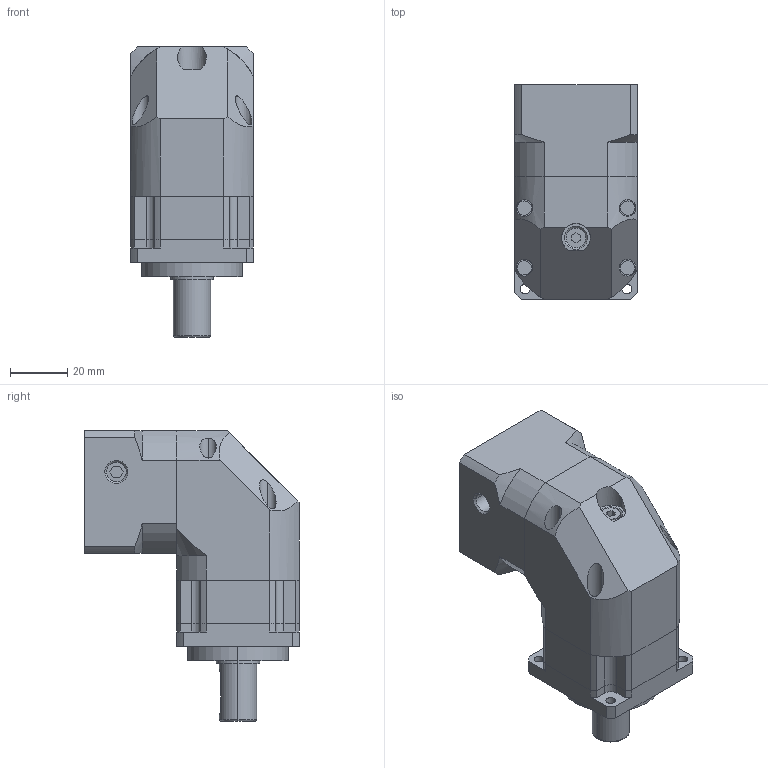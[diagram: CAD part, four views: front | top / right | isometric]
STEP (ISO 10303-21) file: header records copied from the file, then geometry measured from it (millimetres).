
FILE_DESCRIPTION (( 'STEP AP214' ), '1' );
FILE_NAME ('PFR-042-L1-S2 8-30-46-M4.STEP', '2021-09-28T05:21:28', ( 'Admin' ), ( '' ), 'SwSTEP 2.0', 'SolidWorks 2018', '' );
FILE_SCHEMA (( 'AUTOMOTIVE_DESIGN' ));
Length unit declared in the file: millimetre
Products named in the file (5): PFR-042-L1-S2 8-30-46-M4; PFR-042-输入法兰-8-25-30-M4-46; PFR-042-L1-单级齿圈_2; PFR-042-怀堤傷-13-26-35-3.4-50_3; PFR-042-蛌褒眊极_3
Assembly tree (4 placements, depth 2):
  PFR-042-L1-S2 8-30-46-M4
    PFR-042-怀堤傷-13-26-35-3.4-50_3
    PFR-042-L1-单级齿圈_2
    PFR-042-蛌褒眊极_3
    PFR-042-输入法兰-8-25-30-M4-46
Bounding box: 42.6 x 74.6 x 101 mm (x, y, z)
Volume: 132498 mm3; surface area: 42570 mm2
Topology: 4 solids, 4 shells, 368 faces, 895 edges, 578 vertices
Faces by surface type: cylinder 166, plane 159, cone 41, bspline 2
Entity records: 11409 total; most frequent: CARTESIAN_POINT 2371, DIRECTION 1927, ORIENTED_EDGE 1770, EDGE_CURVE 885, AXIS2_PLACEMENT_3D 720, VERTEX_POINT 578, LINE 487, VECTOR 487
